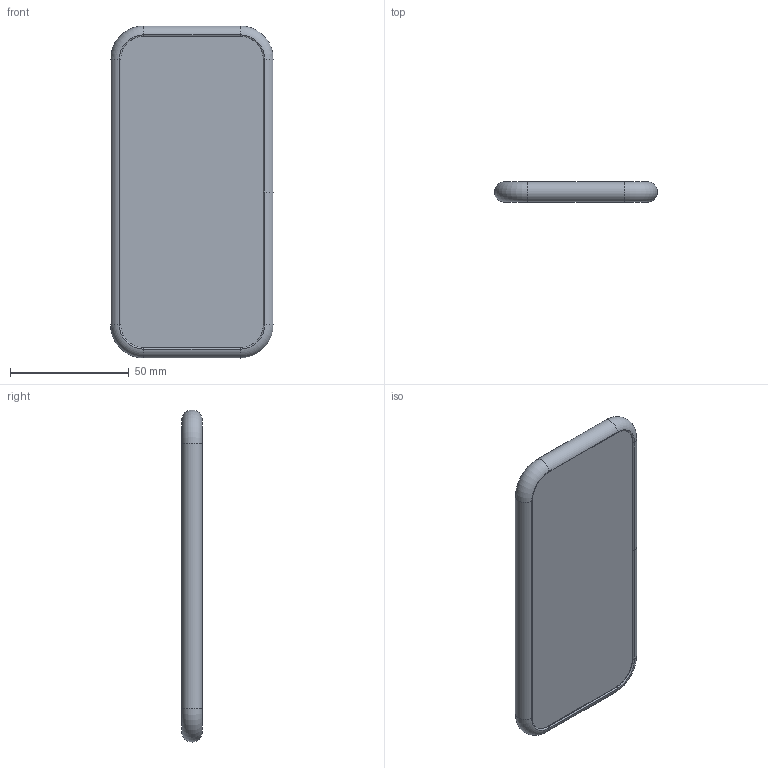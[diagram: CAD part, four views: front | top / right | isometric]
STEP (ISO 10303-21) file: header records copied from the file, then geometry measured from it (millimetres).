
FILE_DESCRIPTION (( 'STEP AP203' ), '1' );
FILE_NAME ('phone-1.STEP', '2020-07-04T20:21:10', ( '' ), ( '' ), 'SwSTEP 2.0', 'SolidWorks 2018', '' );
FILE_SCHEMA (( 'CONFIG_CONTROL_DESIGN' ));
Length unit declared in the file: millimetre
Products named in the file (1): phone-1
Bounding box: 68.57 x 8.53 x 139.77 mm (x, y, z)
Volume: 19259.8 mm3; surface area: 48769.2 mm2
Topology: 3 solids, 3 shells, 93 faces, 195 edges, 106 vertices
Faces by surface type: cylinder 46, torus 24, plane 23
Entity records: 2512 total; most frequent: DIRECTION 485, CARTESIAN_POINT 395, ORIENTED_EDGE 390, AXIS2_PLACEMENT_3D 196, EDGE_CURVE 195, VERTEX_POINT 106, CIRCLE 102, EDGE_LOOP 93
